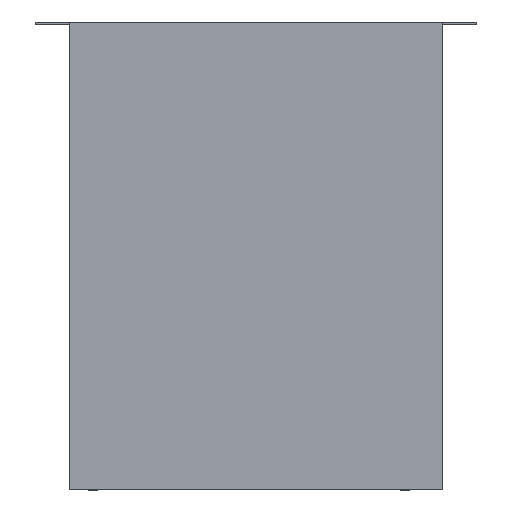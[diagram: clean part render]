
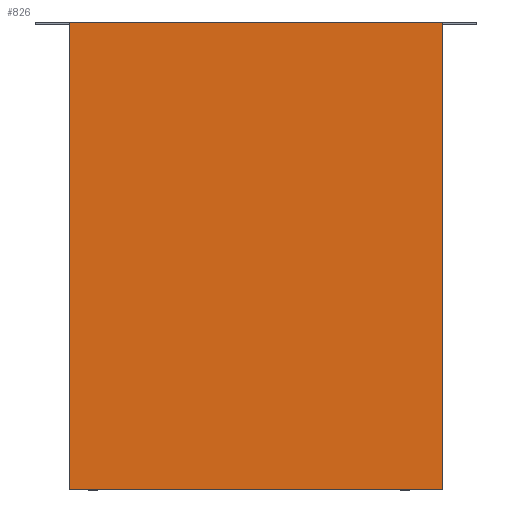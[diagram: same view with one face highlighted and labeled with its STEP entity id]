
A CAD part, front view. The second image highlights one B-rep face of the part: STEP entity #826.
In plain terms, the highlighted planar face has unit normal (0, -1, 0).
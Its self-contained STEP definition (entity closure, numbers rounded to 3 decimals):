
#826=ADVANCED_FACE('',(#2423),#24193,.T.);
#2423=FACE_OUTER_BOUND('',#4027,.T.);
#4027=EDGE_LOOP('',(#6149,#6150,#6151,#6152));
#6149=ORIENTED_EDGE('',*,*,#13533,.T.);
#6150=ORIENTED_EDGE('',*,*,#13526,.F.);
#6151=ORIENTED_EDGE('',*,*,#13534,.T.);
#6152=ORIENTED_EDGE('',*,*,#13531,.F.);
#13526=EDGE_CURVE('',#20965,#20963,#19505,.T.);
#13531=EDGE_CURVE('',#20968,#20969,#19510,.T.);
#13533=EDGE_CURVE('',#20968,#20963,#19512,.T.);
#13534=EDGE_CURVE('',#20965,#20969,#19513,.T.);
#19505=B_SPLINE_CURVE_WITH_KNOTS('',1,(#26471,#26472),.UNSPECIFIED.,.F.,
 .F.,(2,2),(-690.,0.),.UNSPECIFIED.);
#19510=B_SPLINE_CURVE_WITH_KNOTS('',1,(#26481,#26482),.UNSPECIFIED.,.F.,
 .F.,(2,2),(0.,690.),.UNSPECIFIED.);
#19512=B_SPLINE_CURVE_WITH_KNOTS('',1,(#26485,#26486),.UNSPECIFIED.,.F.,
 .F.,(2,2),(592.,1142.),.UNSPECIFIED.);
#19513=B_SPLINE_CURVE_WITH_KNOTS('',1,(#26487,#26488),.UNSPECIFIED.,.F.,
 .F.,(2,2),(-1142.,-592.),.UNSPECIFIED.);
#20963=VERTEX_POINT('',#26007);
#20965=VERTEX_POINT('',#26009);
#20968=VERTEX_POINT('',#26012);
#20969=VERTEX_POINT('',#26013);
#24193=PLANE('',#24614);
#24614=AXIS2_PLACEMENT_3D('',#25542,#25018,$);
#25018=DIRECTION('',(0.,-1.,0.));
#25542=CARTESIAN_POINT('',(275.,-125.,690.));
#26007=CARTESIAN_POINT('',(-275.,-125.,690.));
#26009=CARTESIAN_POINT('',(-275.,-125.,0.));
#26012=CARTESIAN_POINT('',(275.,-125.,690.));
#26013=CARTESIAN_POINT('',(275.,-125.,0.));
#26471=CARTESIAN_POINT('',(-275.,-125.,0.));
#26472=CARTESIAN_POINT('',(-275.,-125.,690.));
#26481=CARTESIAN_POINT('',(275.,-125.,690.));
#26482=CARTESIAN_POINT('',(275.,-125.,0.));
#26485=CARTESIAN_POINT('',(275.,-125.,690.));
#26486=CARTESIAN_POINT('',(-275.,-125.,690.));
#26487=CARTESIAN_POINT('',(-275.,-125.,0.));
#26488=CARTESIAN_POINT('',(275.,-125.,0.));
